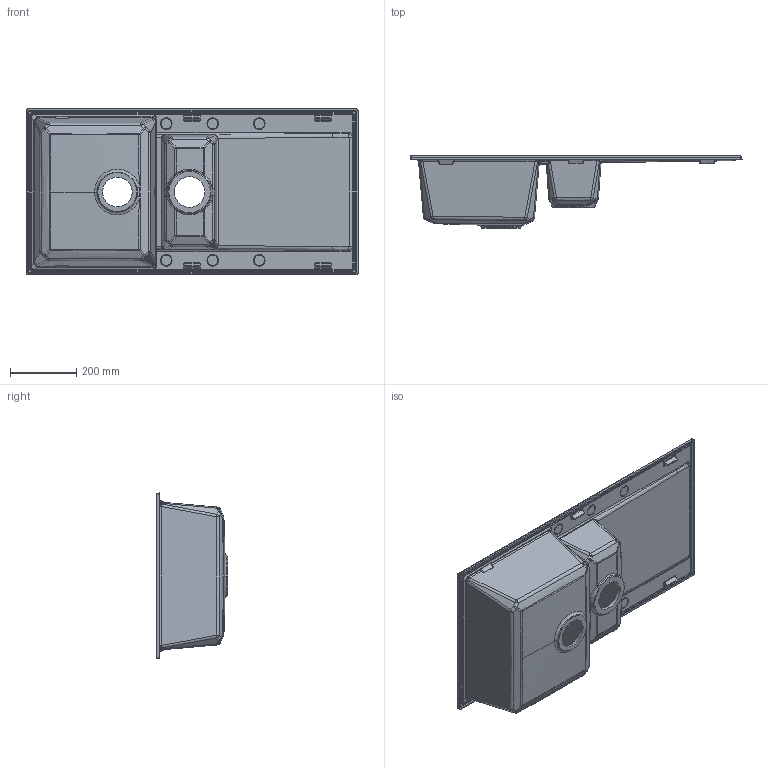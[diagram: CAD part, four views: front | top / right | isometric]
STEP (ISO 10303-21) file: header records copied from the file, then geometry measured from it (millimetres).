
FILE_DESCRIPTION (( 'STEP AP203' ), '1' );
FILE_NAME ('Easy475.STEP', '2019-06-06T07:35:30', ( '' ), ( '' ), 'SwSTEP 2.0', 'SolidWorks 2013', '' );
FILE_SCHEMA (( 'CONFIG_CONTROL_DESIGN' ));
Length unit declared in the file: millimetre
Products named in the file (1): Easy475
Bounding box: 1000 x 216.74 x 500 mm (x, y, z)
Volume: 6928052.9 mm3; surface area: 1719104.3 mm2
Topology: 1 solids, 1 shells, 775 faces, 1742 edges, 961 vertices
Faces by surface type: bspline 376, cylinder 199, plane 87, sphere 76, cone 21, torus 16
Entity records: 31614 total; most frequent: CARTESIAN_POINT 17248, ORIENTED_EDGE 3428, DIRECTION 2467, EDGE_CURVE 1714, AXIS2_PLACEMENT_3D 1052, VERTEX_POINT 959, EDGE_LOOP 799, ADVANCED_FACE 775
